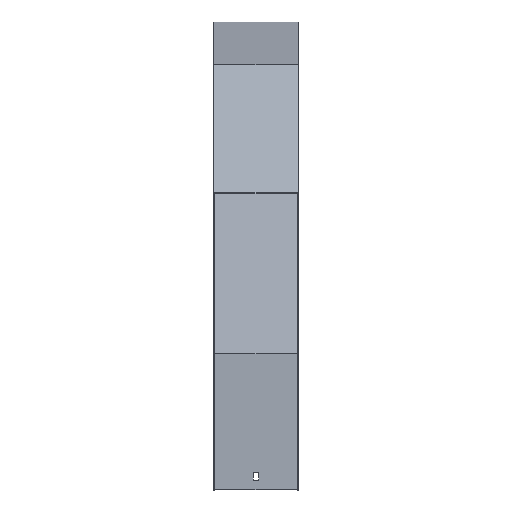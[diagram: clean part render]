
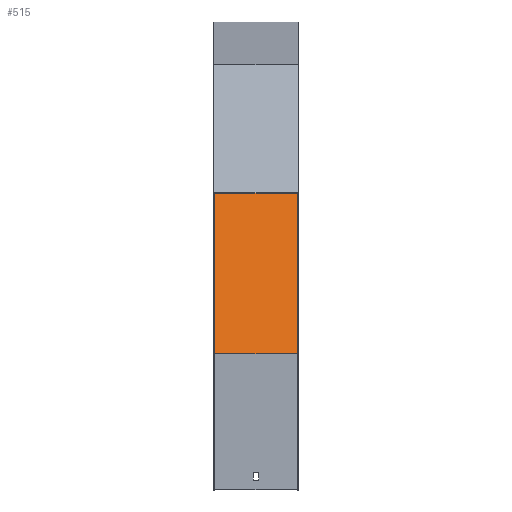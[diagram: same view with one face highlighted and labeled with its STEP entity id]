
A CAD part, top view. The second image highlights one B-rep face of the part: STEP entity #515.
In plain terms, the highlighted planar face has unit normal (0, 0.259, 0.966).
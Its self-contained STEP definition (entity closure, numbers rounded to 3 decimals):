
#41 = ORIENTED_EDGE ( 'NONE', *, *, #578, .F. ) ;
#94 = CARTESIAN_POINT ( 'NONE',  ( -51.5, -187.902, 517.072 ) ) ;
#151 = DIRECTION ( 'NONE',  ( -1., 0., 0. ) ) ;
#170 = CARTESIAN_POINT ( 'NONE',  ( -51.5, -193.079, 518.459 ) ) ;
#191 = LINE ( 'NONE', #527, #306 ) ;
#198 = VECTOR ( 'NONE', #862, 1000. ) ;
#256 = VECTOR ( 'NONE', #457, 1000. ) ;
#257 = VERTEX_POINT ( 'NONE', #311 ) ;
#266 = ORIENTED_EDGE ( 'NONE', *, *, #962, .F. ) ;
#283 = EDGE_CURVE ( 'NONE', #1100, #603, #827, .T. ) ;
#306 = VECTOR ( 'NONE', #939, 1000. ) ;
#311 = CARTESIAN_POINT ( 'NONE',  ( -51.5, -383.978, 569.611 ) ) ;
#331 = VERTEX_POINT ( 'NONE', #1106 ) ;
#417 = AXIS2_PLACEMENT_3D ( 'NONE', #593, #689, #1036 ) ;
#422 = PLANE ( 'NONE',  #417 ) ;
#433 = CARTESIAN_POINT ( 'NONE',  ( 51.5, -383.978, 569.611 ) ) ;
#457 = DIRECTION ( 'NONE',  ( -1., 0., 0. ) ) ;
#515 = ADVANCED_FACE ( 'NONE', ( #600 ), #422, .F. ) ;
#527 = CARTESIAN_POINT ( 'NONE',  ( 51.5, -193.079, 518.459 ) ) ;
#537 = LINE ( 'NONE', #170, #198 ) ;
#541 = LINE ( 'NONE', #433, #256 ) ;
#578 = EDGE_CURVE ( 'NONE', #1100, #331, #191, .T. ) ;
#593 = CARTESIAN_POINT ( 'NONE',  ( 51.5, -193.079, 518.459 ) ) ;
#600 = FACE_OUTER_BOUND ( 'NONE', #850, .T. ) ;
#601 = CARTESIAN_POINT ( 'NONE',  ( 51.5, -187.902, 517.072 ) ) ;
#603 = VERTEX_POINT ( 'NONE', #94 ) ;
#672 = CARTESIAN_POINT ( 'NONE',  ( 51.5, -187.902, 517.072 ) ) ;
#689 = DIRECTION ( 'NONE',  ( 0., -0.259, -0.966 ) ) ;
#755 = ORIENTED_EDGE ( 'NONE', *, *, #932, .T. ) ;
#809 = VECTOR ( 'NONE', #151, 1000. ) ;
#827 = LINE ( 'NONE', #601, #809 ) ;
#850 = EDGE_LOOP ( 'NONE', ( #755, #266, #41, #906 ) ) ;
#862 = DIRECTION ( 'NONE',  ( 0., -0.966, 0.259 ) ) ;
#906 = ORIENTED_EDGE ( 'NONE', *, *, #283, .T. ) ;
#932 = EDGE_CURVE ( 'NONE', #603, #257, #537, .T. ) ;
#939 = DIRECTION ( 'NONE',  ( 0., -0.966, 0.259 ) ) ;
#962 = EDGE_CURVE ( 'NONE', #331, #257, #541, .T. ) ;
#1036 = DIRECTION ( 'NONE',  ( 0., 0.966, -0.259 ) ) ;
#1100 = VERTEX_POINT ( 'NONE', #672 ) ;
#1106 = CARTESIAN_POINT ( 'NONE',  ( 51.5, -383.978, 569.611 ) ) ;
